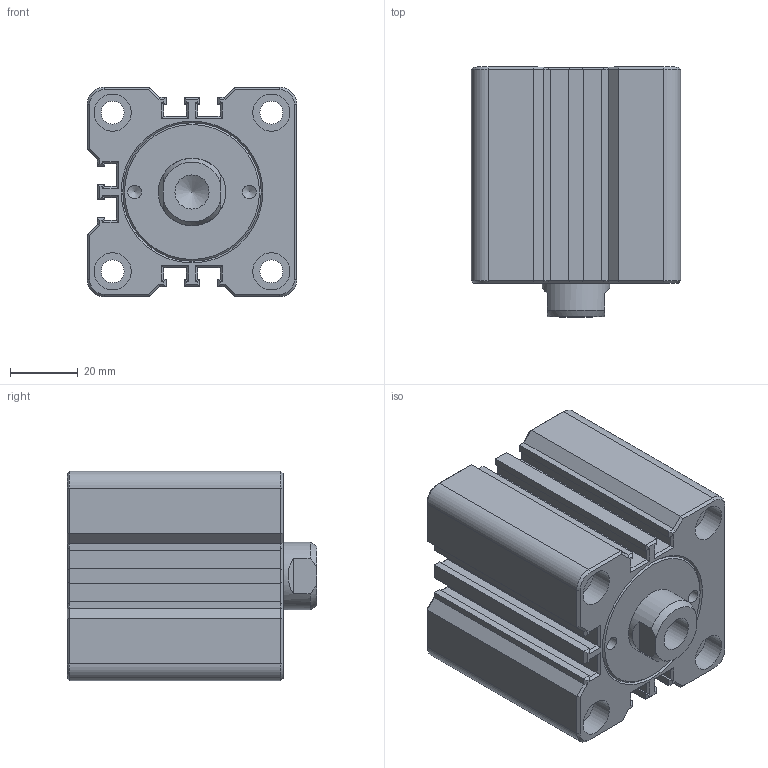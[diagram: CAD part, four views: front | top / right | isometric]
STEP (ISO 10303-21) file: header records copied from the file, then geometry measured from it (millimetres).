
FILE_DESCRIPTION(/* description */ ('Unknown'),/* implementation_level */ '2;1');
FILE_NAME(/* name */ 'HTM70-SDMB32X10N',/* time_stamp */ '2022-08-31T05:39:12+08:00',/* author */ ('Unknown'),/* organization */ ('Unknown'),/* preprocessor_version */ 'ST-DEVELOPER v16.7',/* originating_system */ 'DEX',/* authorisation */ $);
FILE_SCHEMA (('AUTOMOTIVE_DESIGN {1 0 10303 214 3 1 1}'));
Length unit declared in the file: millimetre
Products named in the file (1): HTM70-SDMB32X10N
Bounding box: 62 x 74 x 62 mm (x, y, z)
Volume: 206298.4 mm3; surface area: 37192.1 mm2
Topology: 1 solids, 1 shells, 321 faces, 746 edges, 447 vertices
Faces by surface type: plane 218, cone 40, bspline 36, cylinder 27
Full cylindrical faces by diameter (mm): 4.1 x2, 5 x2, 6 x1, 6.8 x4, 10.106 x1, 11 x8, 12 x2, 13 x2, 20 x1
Entity records: 11197 total; most frequent: CARTESIAN_POINT 2127, ORIENTED_EDGE 1386, DIRECTION 1284, EDGE_CURVE 693, LINE 486, VECTOR 486, VERTEX_POINT 434, AXIS2_PLACEMENT_3D 399
